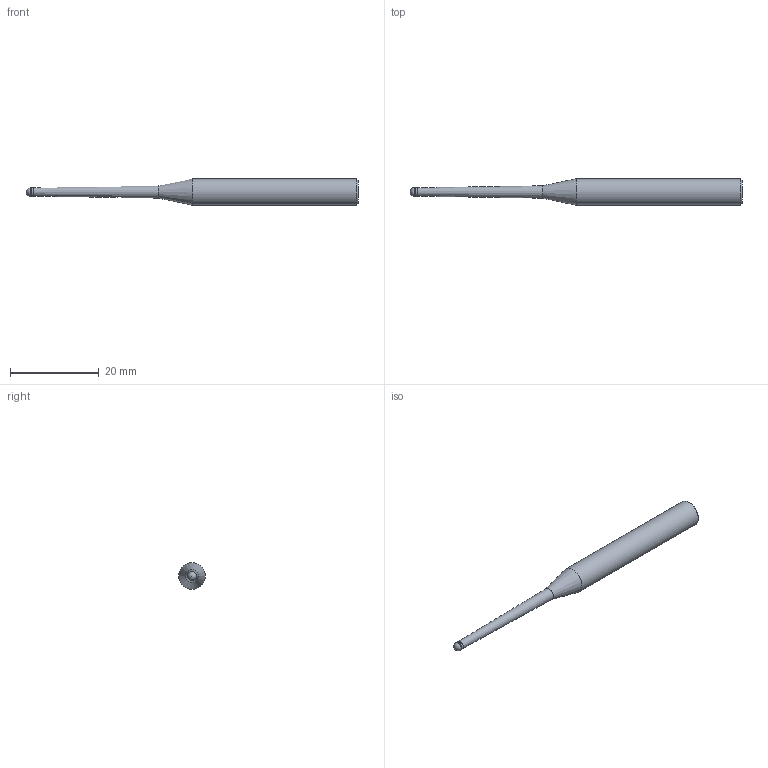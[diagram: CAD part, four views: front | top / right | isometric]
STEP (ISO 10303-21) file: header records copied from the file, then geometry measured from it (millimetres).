
FILE_DESCRIPTION(/* description */ (''),/* implementation_level */ '2;1');
FILE_NAME(/* name */ 'HGXPB2020-30-T0.9 0675.stp',/* time_stamp */ '2026-01-23T14:44:45+08:00',/* author */ (''),/* organization */ (''),/* preprocessor_version */ 'ST-DEVELOPER v16',/* originating_system */ 'SIEMENS PLM Software NX 10.0',/* authorisation */ '');
FILE_SCHEMA (('CONFIG_CONTROL_DESIGN'));
Length unit declared in the file: millimetre
Products named in the file (1): HGXPB2020-30-T0.9 0675_dxf
Bounding box: 75 x 6 x 6 mm (x, y, z)
Volume: 1305.4 mm3; surface area: 1056.6 mm2
Topology: 1 solids, 1 shells, 9 faces, 16 edges, 9 vertices
Faces by surface type: cylinder 3, cone 3, plane 2, sphere 1
Full cylindrical faces by diameter (mm): 1.9 x1, 2 x1, 6 x1
Entity records: 258 total; most frequent: DIRECTION 36, CARTESIAN_POINT 26, AXIS2_PLACEMENT_3D 18, EDGE_LOOP 16, ORIENTED_EDGE 16, FACE_BOUND 14, ADVANCED_FACE 9, VERTEX_POINT 8
